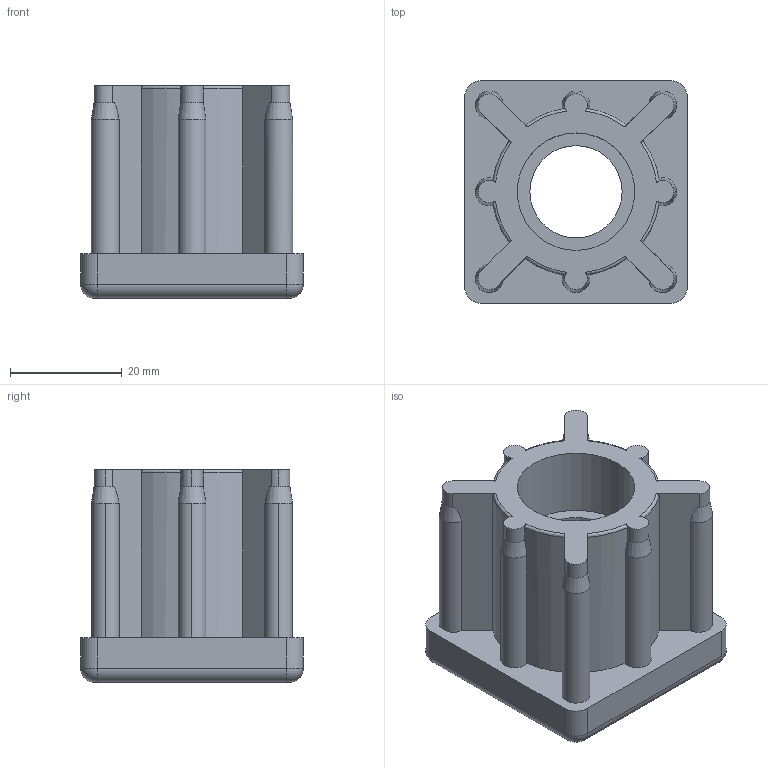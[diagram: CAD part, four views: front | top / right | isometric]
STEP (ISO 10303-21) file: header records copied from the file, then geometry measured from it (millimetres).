
FILE_DESCRIPTION (( 'STEP AP214' ), '1' );
FILE_NAME ('42006840320.STEP', '2020-02-26T10:35:22', ( '' ), ( '' ), 'SwSTEP 2.0', 'SolidWorks 2018', '' );
FILE_SCHEMA (( 'AUTOMOTIVE_DESIGN' ));
Length unit declared in the file: millimetre
Products named in the file (1): 42006840320
Bounding box: 39.8 x 39.8 x 38 mm (x, y, z)
Volume: 27681.8 mm3; surface area: 14870.4 mm2
Topology: 2 solids, 2 shells, 114 faces, 301 edges, 194 vertices
Faces by surface type: cylinder 56, plane 27, cone 19, torus 12
Entity records: 4018 total; most frequent: CARTESIAN_POINT 1098, DIRECTION 625, ORIENTED_EDGE 602, EDGE_CURVE 301, AXIS2_PLACEMENT_3D 249, VERTEX_POINT 194, CIRCLE 134, VECTOR 127
